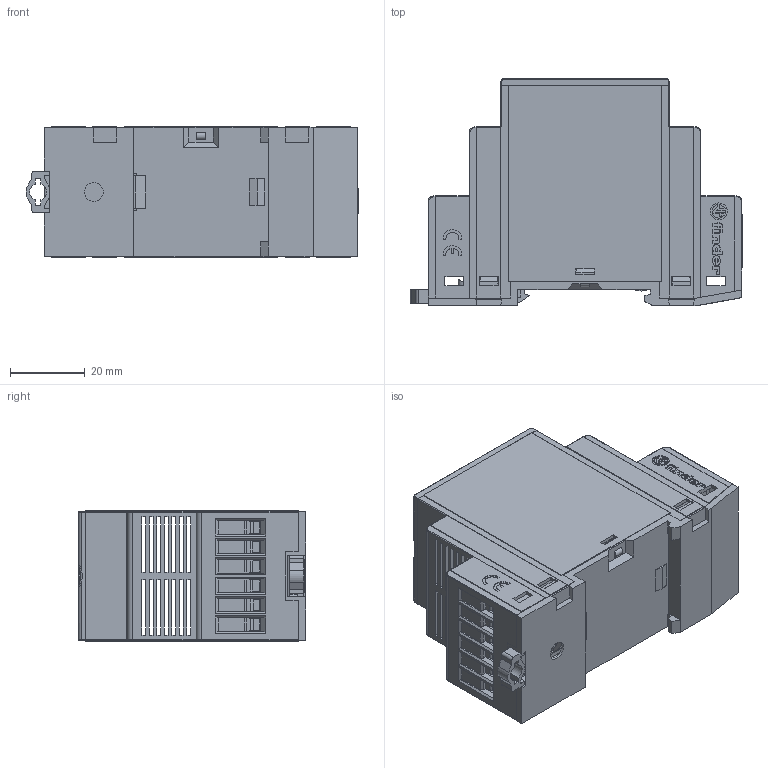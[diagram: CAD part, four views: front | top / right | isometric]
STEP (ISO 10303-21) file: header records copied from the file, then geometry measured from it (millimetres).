
FILE_DESCRIPTION(/* description */ ('Unknown'),/* implementation_level */ '2;1');
FILE_NAME(/* name */ '8402_rev01',/* time_stamp */ '2016-12-01T15:12:03+01:00',/* author */ ('Unknown'),/* organization */ ('Unknown'),/* preprocessor_version */ 'ST-DEVELOPER v16.7',/* originating_system */ 'DEX',/* authorisation */ $);
FILE_SCHEMA (('AUTOMOTIVE_DESIGN {1 0 10303 214 3 1 1}'));
Products named in the file (1): 8402
Bounding box: 88.85 x 60.8 x 35 mm (x, y, z)
Surface area: 31614.4 mm2 (no closed solid volume)
Topology: 0 solids, 68 shells, 2124 faces, 7877 edges, 5828 vertices
Faces by surface type: plane 1821, cylinder 179, cone 52, torus 36, bspline 34, sphere 2
Full cylindrical faces by diameter (mm): 2 x1, 3 x2, 3.3 x1, 4.2 x12, 4.566 x2, 4.6 x12, 5 x1
Entity records: 86485 total; most frequent: CARTESIAN_POINT 20629, ORIENTED_EDGE 12939, DIRECTION 12418, EDGE_CURVE 7800, LINE 6848, VECTOR 6848, VERTEX_POINT 5797, AXIS2_PLACEMENT_3D 2785
